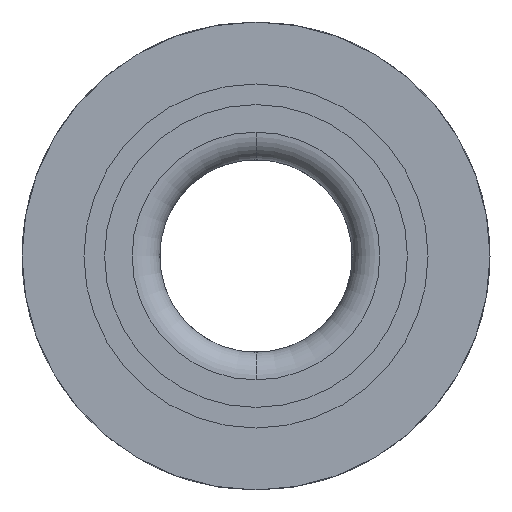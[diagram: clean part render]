
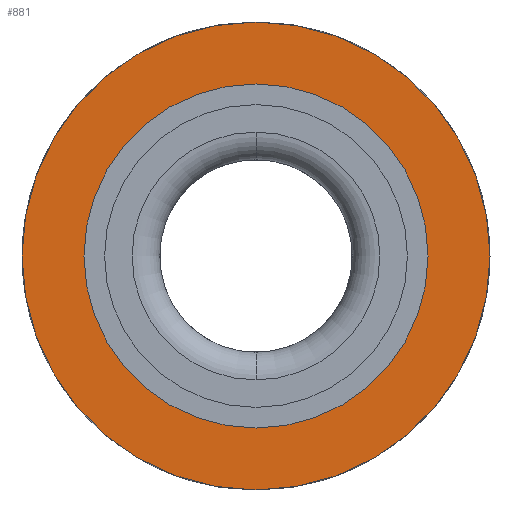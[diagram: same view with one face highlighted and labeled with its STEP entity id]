
A CAD part, front view. The second image highlights one B-rep face of the part: STEP entity #881.
In plain terms, the highlighted planar face has unit normal (0, -1, 0).
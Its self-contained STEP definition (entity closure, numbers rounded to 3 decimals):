
#517 = VERTEX_POINT ( 'NONE', #2024 ) ;
#530 = VERTEX_POINT ( 'NONE', #2134 ) ;
#538 = EDGE_CURVE ( 'NONE', #530, #517, #2131, .T. ) ;
#542 = VERTEX_POINT ( 'NONE', #2092 ) ;
#547 = EDGE_CURVE ( 'NONE', #542, #553, #2084, .T. ) ;
#553 = VERTEX_POINT ( 'NONE', #2060 ) ;
#753 = EDGE_CURVE ( 'NONE', #553, #542, #2488, .T. ) ;
#800 = EDGE_LOOP ( 'NONE', ( #921, #882 ) ) ;
#879 = ORIENTED_EDGE ( 'NONE', *, *, #538, .T. ) ;
#880 = ORIENTED_EDGE ( 'NONE', *, *, #913, .T. ) ;
#881 = ADVANCED_FACE ( 'NONE', ( #2641, #2634 ), #2633, .T. ) ;
#882 = ORIENTED_EDGE ( 'NONE', *, *, #753, .F. ) ;
#913 = EDGE_CURVE ( 'NONE', #517, #530, #2807, .T. ) ;
#917 = EDGE_LOOP ( 'NONE', ( #879, #880 ) ) ;
#921 = ORIENTED_EDGE ( 'NONE', *, *, #547, .F. ) ;
#2024 = CARTESIAN_POINT ( 'NONE',  ( 0., -20.5, -5.5 ) ) ;
#2060 = CARTESIAN_POINT ( 'NONE',  ( 0., -20.5, -8.5 ) ) ;
#2062 = DIRECTION ( 'NONE',  ( 0., 0., 1. ) ) ;
#2063 = DIRECTION ( 'NONE',  ( 0., 1., 0. ) ) ;
#2064 = CARTESIAN_POINT ( 'NONE',  ( 0., -20.5, 0. ) ) ;
#2079 = AXIS2_PLACEMENT_3D ( 'NONE', #2064, #2063, #2062 ) ;
#2084 = CIRCLE ( 'NONE', #2079, 8.5 ) ;
#2092 = CARTESIAN_POINT ( 'NONE',  ( 0., -20.5, 8.5 ) ) ;
#2095 = DIRECTION ( 'NONE',  ( 0., 0., 1. ) ) ;
#2096 = DIRECTION ( 'NONE',  ( 0., 1., 0. ) ) ;
#2131 = CIRCLE ( 'NONE', #2148, 5.5 ) ;
#2133 = CARTESIAN_POINT ( 'NONE',  ( 0., -20.5, 0. ) ) ;
#2134 = CARTESIAN_POINT ( 'NONE',  ( 0., -20.5, 5.5 ) ) ;
#2148 = AXIS2_PLACEMENT_3D ( 'NONE', #2133, #2096, #2095 ) ;
#2469 = DIRECTION ( 'NONE',  ( 0., 0., 1. ) ) ;
#2470 = DIRECTION ( 'NONE',  ( 0., 1., 0. ) ) ;
#2471 = CARTESIAN_POINT ( 'NONE',  ( 0., -20.5, 0. ) ) ;
#2472 = AXIS2_PLACEMENT_3D ( 'NONE', #2471, #2470, #2469 ) ;
#2488 = CIRCLE ( 'NONE', #2472, 8.5 ) ;
#2629 = DIRECTION ( 'NONE',  ( 0., 0., -1. ) ) ;
#2630 = DIRECTION ( 'NONE',  ( 0., -1., 0. ) ) ;
#2633 = PLANE ( 'NONE',  #2644 ) ;
#2634 = FACE_OUTER_BOUND ( 'NONE', #800, .T. ) ;
#2635 = CARTESIAN_POINT ( 'NONE',  ( -8.5, -20.5, 0. ) ) ;
#2641 = FACE_BOUND ( 'NONE', #917, .T. ) ;
#2644 = AXIS2_PLACEMENT_3D ( 'NONE', #2635, #2630, #2629 ) ;
#2807 = CIRCLE ( 'NONE', #2917, 5.5 ) ;
#2810 = CARTESIAN_POINT ( 'NONE',  ( 0., -20.5, 0. ) ) ;
#2899 = DIRECTION ( 'NONE',  ( 0., 0., 1. ) ) ;
#2900 = DIRECTION ( 'NONE',  ( 0., 1., 0. ) ) ;
#2917 = AXIS2_PLACEMENT_3D ( 'NONE', #2810, #2900, #2899 ) ;
